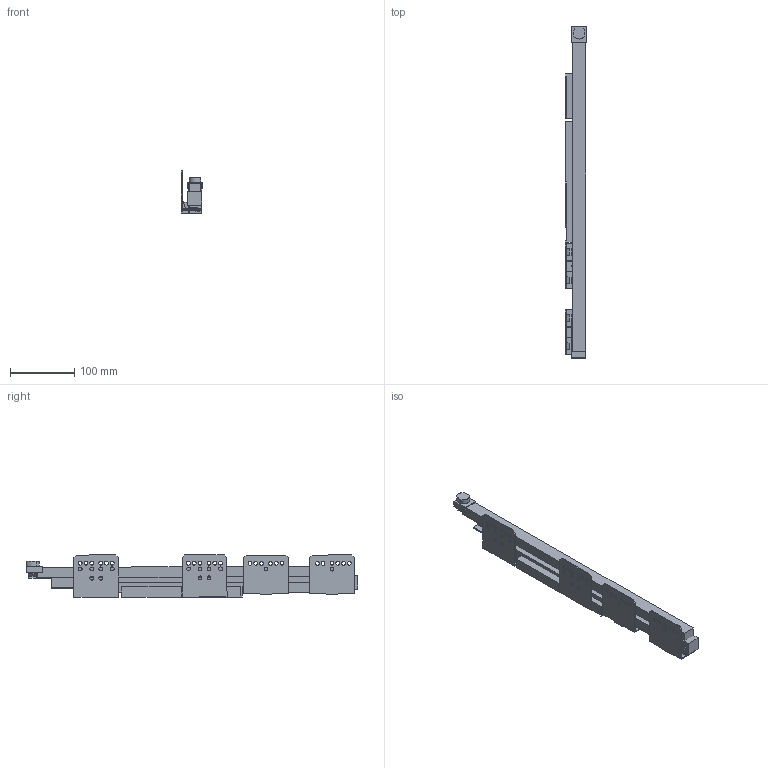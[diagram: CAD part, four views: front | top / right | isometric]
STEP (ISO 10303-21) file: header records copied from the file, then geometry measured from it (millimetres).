
FILE_DESCRIPTION (( 'STEP AP214' ), '1' );
FILE_NAME ('_IMOS Dynamic-XP VA 80kg NL500 LI Tipmatic.step', '2010-07-08T13:27:40', ( 'grass' ), ( '' ), 'SwSTEP 2.0', 'SolidWorks 2010', '' );
FILE_SCHEMA (( 'AUTOMOTIVE_DESIGN' ));
Length unit declared in the file: millimetre
Products named in the file (1): _IMOS Dynamic-XP VA 80kg NL500 LI Tipmatic
Bounding box: 33.14 x 518.02 x 66.67 mm (x, y, z)
Volume: 472872.7 mm3; surface area: 191690.6 mm2
Topology: 10 solids, 10 shells, 280 faces, 772 edges, 514 vertices
Faces by surface type: plane 193, cylinder 87
Entity records: 9171 total; most frequent: CARTESIAN_POINT 1567, ORIENTED_EDGE 1544, DIRECTION 1510, EDGE_CURVE 772, LINE 596, VECTOR 596, VERTEX_POINT 514, AXIS2_PLACEMENT_3D 457
